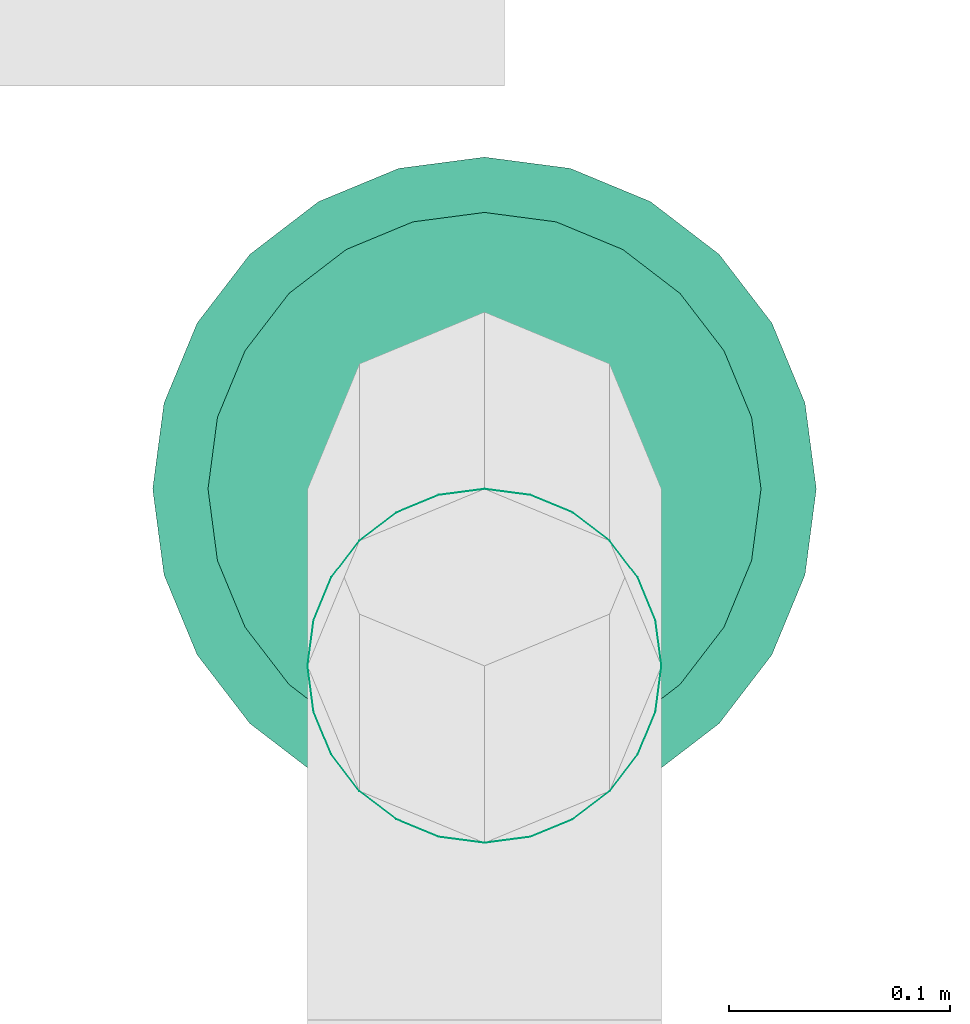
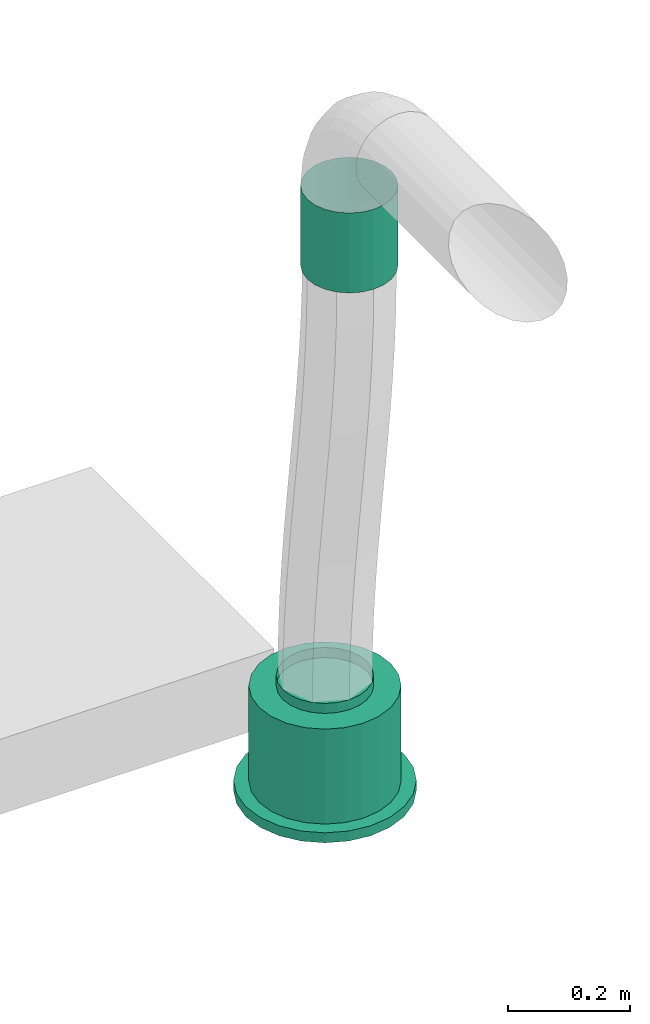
# One storey, part 35 of 374: 1 flow segment, 1 flow terminal.
"""IFC2X3 building model written with IfcOpenShell, lengths in metres."""

from ifc_helpers import new_model, si_unit, direction, origin, place, context, subcontext, project, spatial, open_shell, surface_model, source, transform, mapped, element, save


model = new_model("IFC2X3")

# Units and contexts
model_context = context("Model", 3, precision=1e-05, world=origin(), true_north=direction((-0.4480736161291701, 0.8939966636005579)))
body_context = subcontext(model_context, "Body", "Model", "MODEL_VIEW")
ifc_project = project(units=[si_unit("LENGTHUNIT", "METRE"), si_unit("AREAUNIT", "SQUARE_METRE"), si_unit("VOLUMEUNIT", "CUBIC_METRE"), si_unit("PLANEANGLEUNIT", "RADIAN"), si_unit("THERMODYNAMICTEMPERATUREUNIT", "KELVIN"), si_unit("MASSUNIT", "GRAM", prefix="KILO"), si_unit("TIMEUNIT", "SECOND")], contexts=[model_context])

# Site, building, storey
site_placement = place(None, origin())
site = spatial("IfcSite", under=ifc_project, at=site_placement, Name="Site 1", CompositionType="ELEMENT")
building_placement = place(site_placement, origin())
building = spatial("IfcBuilding", under=site, at=building_placement, Name="Undefined", CompositionType="ELEMENT")
storey_placement = place(building_placement, origin())
storey = spatial("IfcBuildingStorey", under=building, at=storey_placement, Name="Rez de chauss\x8ee", CompositionType="ELEMENT", Elevation=0.0)

# Flow terminal
shared_shape_1 = source(origin(), body_context, "Body", "SurfaceModel", [
    surface_model("IfcFaceBasedSurfaceModel", [(0.0, 0.0, 0.0), (0.03915785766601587, 0.0, 0.0), (0.03915785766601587, 0.020000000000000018, 0.0), (3.552713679e-15, 0.020000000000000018, 0.0), (0.07698144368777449, 0.0, -0.010134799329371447), (0.07698144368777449, 0.020000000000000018, -0.010134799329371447), (0.11089314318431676, 0.0, -0.02971372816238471), (0.11089314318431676, 0.020000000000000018, -0.02971372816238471), (0.13858192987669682, 0.0, -0.05740251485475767), (0.13858192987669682, 0.020000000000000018, -0.05740251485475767), (0.15816085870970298, 0.0, -0.09131421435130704), (0.15816085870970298, 0.020000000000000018, -0.09131421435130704), (0.16829565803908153, 0.0, -0.12913780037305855), (0.16829565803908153, 0.020000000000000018, -0.12913780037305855), (0.16829565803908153, 0.0, -0.16829565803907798), (0.16829565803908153, 0.020000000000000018, -0.16829565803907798), (0.15816085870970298, 0.0, -0.20611924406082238), (0.15816085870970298, 0.020000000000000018, -0.20611924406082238), (0.13858192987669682, 0.0, -0.24003094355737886), (0.13858192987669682, 0.020000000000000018, -0.24003094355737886), (0.11089314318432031, 0.0, -0.2677197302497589), (0.11089314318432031, 0.020000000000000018, -0.2677197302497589), (0.07698144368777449, 0.0, -0.2872986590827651), (0.07698144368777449, 0.020000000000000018, -0.2872986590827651), (0.039157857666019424, 0.0, -0.29743345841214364), (0.039157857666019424, 0.020000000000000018, -0.29743345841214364), (3.552713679e-15, 0.0, -0.29743345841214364), (3.552713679e-15, 0.020000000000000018, -0.29743345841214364), (-0.03782358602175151, 0.0, -0.2872986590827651), (-0.03782358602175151, 0.020000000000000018, -0.2872986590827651), (-0.07173528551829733, 0.0, -0.2677197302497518), (-0.07173528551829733, 0.020000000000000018, -0.2677197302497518), (-0.0994240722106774, 0.0, -0.24003094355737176), (-0.0994240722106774, 0.020000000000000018, -0.24003094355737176), (-0.11900300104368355, 0.0, -0.2061192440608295), (-0.11900300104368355, 0.020000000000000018, -0.2061192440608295), (-0.1291378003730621, 0.0, -0.16829565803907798), (-0.1291378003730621, 0.020000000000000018, -0.16829565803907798), (-0.1291378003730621, 0.0, -0.12913780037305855), (-0.1291378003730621, 0.020000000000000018, -0.12913780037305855), (-0.11900300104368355, 0.0, -0.09131421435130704), (-0.11900300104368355, 0.020000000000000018, -0.09131421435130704), (-0.0994240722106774, 0.0, -0.05740251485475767), (-0.0994240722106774, 0.020000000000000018, -0.05740251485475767), (-0.07173528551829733, 0.0, -0.029713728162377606), (-0.07173528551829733, 0.020000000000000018, -0.029713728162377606), (-0.03782358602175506, 0.0, -0.010134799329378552), (-0.03782358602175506, 0.020000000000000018, -0.010134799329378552), (0.019578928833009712, 0.0, -0.14871672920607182), (0.019578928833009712, 0.020000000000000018, -0.14871672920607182), (0.003263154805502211, 0.020000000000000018, -0.02478612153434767), (0.035894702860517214, 0.020000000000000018, -0.02478612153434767), (0.035894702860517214, 0.20999999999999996, -0.02478612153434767), (0.003263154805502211, 0.20999999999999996, -0.02478612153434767), (0.06741435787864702, 0.020000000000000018, -0.033231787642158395), (0.06741435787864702, 0.20999999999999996, -0.033231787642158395), (0.0956741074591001, 0.020000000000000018, -0.04954756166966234), (0.0956741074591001, 0.20999999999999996, -0.04954756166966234), (0.11874809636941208, 0.020000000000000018, -0.07262155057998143), (0.11874809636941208, 0.20999999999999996, -0.07262155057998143), (0.13506387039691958, 0.020000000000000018, -0.10088130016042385), (0.13506387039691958, 0.20999999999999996, -0.10088130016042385), (0.1435095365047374, 0.020000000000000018, -0.13240095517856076), (0.1435095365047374, 0.20999999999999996, -0.13240095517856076), (0.1435095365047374, 0.020000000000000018, -0.16503250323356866), (0.1435095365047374, 0.20999999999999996, -0.16503250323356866), (0.13506387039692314, 0.020000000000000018, -0.19655215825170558), (0.13506387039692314, 0.20999999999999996, -0.19655215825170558), (0.11874809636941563, 0.020000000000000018, -0.2248119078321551), (0.11874809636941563, 0.20999999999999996, -0.2248119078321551), (0.09567410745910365, 0.020000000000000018, -0.24788589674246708), (0.09567410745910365, 0.20999999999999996, -0.24788589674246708), (0.06741435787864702, 0.020000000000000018, -0.26420167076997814), (0.06741435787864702, 0.20999999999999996, -0.26420167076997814), (0.035894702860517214, 0.020000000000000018, -0.27264733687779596), (0.035894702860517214, 0.20999999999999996, -0.27264733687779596), (0.0032631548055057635, 0.020000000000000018, -0.27264733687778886), (0.0032631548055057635, 0.20999999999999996, -0.27264733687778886), (-0.028256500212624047, 0.020000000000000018, -0.26420167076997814), (-0.028256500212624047, 0.20999999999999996, -0.26420167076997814), (-0.05651624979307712, 0.020000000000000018, -0.2478858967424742), (-0.05651624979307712, 0.20999999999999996, -0.2478858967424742), (-0.07959023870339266, 0.020000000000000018, -0.2248119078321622), (-0.07959023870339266, 0.20999999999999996, -0.2248119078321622), (-0.09590601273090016, 0.020000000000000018, -0.19655215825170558), (-0.09590601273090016, 0.20999999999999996, -0.19655215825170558), (-0.10435167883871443, 0.020000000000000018, -0.16503250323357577), (-0.10435167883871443, 0.20999999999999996, -0.16503250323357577), (-0.10435167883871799, 0.020000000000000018, -0.13240095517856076), (-0.10435167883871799, 0.20999999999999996, -0.13240095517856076), (-0.09590601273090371, 0.020000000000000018, -0.10088130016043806), (-0.09590601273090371, 0.20999999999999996, -0.10088130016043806), (-0.07959023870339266, 0.020000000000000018, -0.07262155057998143), (-0.07959023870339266, 0.20999999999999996, -0.07262155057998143), (-0.056516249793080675, 0.020000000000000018, -0.04954756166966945), (-0.056516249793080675, 0.20999999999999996, -0.04954756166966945), (-0.028256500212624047, 0.020000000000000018, -0.033231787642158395), (-0.028256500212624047, 0.20999999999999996, -0.033231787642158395), (0.019578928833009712, 0.20999999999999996, -0.14871672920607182), (0.009136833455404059, 0.20999999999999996, -0.06940114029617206), (0.030021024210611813, 0.20999999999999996, -0.06940114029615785), (0.030021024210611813, 0.22999999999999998, -0.06940114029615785), (0.009136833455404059, 0.22999999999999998, -0.06940114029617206), (0.05019360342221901, 0.20999999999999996, -0.07480636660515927), (0.05019360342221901, 0.22999999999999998, -0.07480636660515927), (0.06827984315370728, 0.20999999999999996, -0.08524846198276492), (0.06827984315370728, 0.22999999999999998, -0.08524846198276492), (0.0830471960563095, 0.20999999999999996, -0.10001581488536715), (0.0830471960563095, 0.22999999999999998, -0.10001581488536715), (0.0934892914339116, 0.20999999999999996, -0.11810205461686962), (0.0934892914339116, 0.22999999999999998, -0.11810205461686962), (0.09889451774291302, 0.20999999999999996, -0.13827463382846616), (0.09889451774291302, 0.22999999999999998, -0.13827463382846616), (0.09889451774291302, 0.20999999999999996, -0.15915882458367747), (0.09889451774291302, 0.22999999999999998, -0.15915882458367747), (0.09348929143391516, 0.20999999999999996, -0.179331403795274), (0.09348929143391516, 0.22999999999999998, -0.179331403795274), (0.0830471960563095, 0.20999999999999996, -0.19741764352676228), (0.0830471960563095, 0.22999999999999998, -0.19741764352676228), (0.06827984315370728, 0.20999999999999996, -0.2121849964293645), (0.06827984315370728, 0.22999999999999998, -0.2121849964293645), (0.05019360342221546, 0.20999999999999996, -0.22262709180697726), (0.05019360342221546, 0.22999999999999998, -0.22262709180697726), (0.030021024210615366, 0.20999999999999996, -0.22803231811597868), (0.030021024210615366, 0.22999999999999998, -0.22803231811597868), (0.009136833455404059, 0.20999999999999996, -0.22803231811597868), (0.009136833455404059, 0.22999999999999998, -0.22803231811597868), (-0.011035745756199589, 0.20999999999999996, -0.22262709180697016), (-0.011035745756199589, 0.22999999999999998, -0.22262709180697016), (-0.0291219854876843, 0.20999999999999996, -0.2121849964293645), (-0.0291219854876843, 0.22999999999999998, -0.2121849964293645), (-0.043889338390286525, 0.20999999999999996, -0.19741764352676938), (-0.043889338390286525, 0.22999999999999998, -0.19741764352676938), (-0.05433143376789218, 0.20999999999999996, -0.17933140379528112), (-0.05433143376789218, 0.22999999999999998, -0.17933140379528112), (-0.05973666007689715, 0.20999999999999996, -0.15915882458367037), (-0.05973666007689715, 0.22999999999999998, -0.15915882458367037), (-0.0597366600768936, 0.20999999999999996, -0.13827463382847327), (-0.0597366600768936, 0.22999999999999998, -0.13827463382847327), (-0.05433143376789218, 0.20999999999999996, -0.11810205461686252), (-0.05433143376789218, 0.22999999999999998, -0.11810205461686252), (-0.043889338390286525, 0.20999999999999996, -0.10001581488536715), (-0.043889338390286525, 0.22999999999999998, -0.10001581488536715), (-0.02912198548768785, 0.20999999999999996, -0.08524846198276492), (-0.02912198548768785, 0.22999999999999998, -0.08524846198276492), (-0.011035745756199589, 0.20999999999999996, -0.07480636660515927), (-0.011035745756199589, 0.22999999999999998, -0.07480636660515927)], [open_shell([[[0, 1, 2, 3]], [[1, 4, 5, 2]], [[4, 6, 7, 5]], [[6, 8, 9, 7]], [[8, 10, 11, 9]], [[10, 12, 13, 11]], [[12, 14, 15, 13]], [[14, 16, 17, 15]], [[16, 18, 19, 17]], [[18, 20, 21, 19]], [[20, 22, 23, 21]], [[22, 24, 25, 23]], [[24, 26, 27, 25]], [[26, 28, 29, 27]], [[28, 30, 31, 29]], [[30, 32, 33, 31]], [[32, 34, 35, 33]], [[34, 36, 37, 35]], [[36, 38, 39, 37]], [[38, 40, 41, 39]], [[40, 42, 43, 41]], [[42, 44, 45, 43]], [[44, 46, 47, 45]], [[46, 0, 3, 47]], [[48, 1, 0]], [[48, 4, 1]], [[48, 6, 4]], [[48, 8, 6]], [[48, 10, 8]], [[48, 12, 10]], [[48, 14, 12]], [[48, 16, 14]], [[48, 18, 16]], [[48, 20, 18]], [[48, 22, 20]], [[48, 24, 22]], [[48, 26, 24]], [[48, 28, 26]], [[48, 30, 28]], [[48, 32, 30]], [[48, 34, 32]], [[48, 36, 34]], [[48, 38, 36]], [[48, 40, 38]], [[48, 42, 40]], [[48, 44, 42]], [[48, 46, 44]], [[48, 0, 46]], [[49, 47, 3]], [[49, 45, 47]], [[49, 43, 45]], [[49, 41, 43]], [[49, 39, 41]], [[49, 37, 39]], [[49, 35, 37]], [[49, 33, 35]], [[49, 31, 33]], [[49, 29, 31]], [[49, 27, 29]], [[49, 25, 27]], [[49, 23, 25]], [[49, 21, 23]], [[49, 19, 21]], [[49, 17, 19]], [[49, 15, 17]], [[49, 13, 15]], [[49, 11, 13]], [[49, 9, 11]], [[49, 7, 9]], [[49, 5, 7]], [[49, 2, 5]], [[49, 3, 2]], [[50, 51, 52, 53]], [[51, 54, 55, 52]], [[54, 56, 57, 55]], [[56, 58, 59, 57]], [[58, 60, 61, 59]], [[60, 62, 63, 61]], [[62, 64, 65, 63]], [[64, 66, 67, 65]], [[66, 68, 69, 67]], [[68, 70, 71, 69]], [[70, 72, 73, 71]], [[72, 74, 75, 73]], [[74, 76, 77, 75]], [[76, 78, 79, 77]], [[78, 80, 81, 79]], [[80, 82, 83, 81]], [[82, 84, 85, 83]], [[84, 86, 87, 85]], [[86, 88, 89, 87]], [[88, 90, 91, 89]], [[90, 92, 93, 91]], [[92, 94, 95, 93]], [[94, 96, 97, 95]], [[96, 50, 53, 97]], [[49, 51, 50]], [[49, 54, 51]], [[49, 56, 54]], [[49, 58, 56]], [[49, 60, 58]], [[49, 62, 60]], [[49, 64, 62]], [[49, 66, 64]], [[49, 68, 66]], [[49, 70, 68]], [[49, 72, 70]], [[49, 74, 72]], [[49, 76, 74]], [[49, 78, 76]], [[49, 80, 78]], [[49, 82, 80]], [[49, 84, 82]], [[49, 86, 84]], [[49, 88, 86]], [[49, 90, 88]], [[49, 92, 90]], [[49, 94, 92]], [[49, 96, 94]], [[49, 50, 96]], [[98, 97, 53]], [[98, 95, 97]], [[98, 93, 95]], [[98, 91, 93]], [[98, 89, 91]], [[98, 87, 89]], [[98, 85, 87]], [[98, 83, 85]], [[98, 81, 83]], [[98, 79, 81]], [[98, 77, 79]], [[98, 75, 77]], [[98, 73, 75]], [[98, 71, 73]], [[98, 69, 71]], [[98, 67, 69]], [[98, 65, 67]], [[98, 63, 65]], [[98, 61, 63]], [[98, 59, 61]], [[98, 57, 59]], [[98, 55, 57]], [[98, 52, 55]], [[98, 53, 52]], [[99, 100, 101, 102]], [[100, 103, 104, 101]], [[103, 105, 106, 104]], [[105, 107, 108, 106]], [[107, 109, 110, 108]], [[109, 111, 112, 110]], [[111, 113, 114, 112]], [[113, 115, 116, 114]], [[115, 117, 118, 116]], [[117, 119, 120, 118]], [[119, 121, 122, 120]], [[121, 123, 124, 122]], [[123, 125, 126, 124]], [[125, 127, 128, 126]], [[127, 129, 130, 128]], [[129, 131, 132, 130]], [[131, 133, 134, 132]], [[133, 135, 136, 134]], [[135, 137, 138, 136]], [[137, 139, 140, 138]], [[139, 141, 142, 140]], [[141, 143, 144, 142]], [[143, 145, 146, 144]], [[145, 99, 102, 146]]])]),
])
flow_terminal_placement = place(storey_placement, origin())
element("IfcFlowTerminal", 1, at=flow_terminal_placement, inside=storey, Name="Air diffuseur - bouche", ObjectType="Air diffuseur - bouche", context=body_context, shape_type="MappedRepresentation", body=[
    mapped(shared_shape_1, transform((10.98005330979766, 16.80529701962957, 2.38), x_axis=(0.9914448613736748, 0.13052619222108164, 0.0), y_axis=(0.0, 0.0, 1.0), z_axis=(0.13052619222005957, -0.9914448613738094, 0.0))),
])

# Flow segment
shared_shape_2 = source(origin(), body_context, "Body", "SurfaceModel", [
    surface_model("IfcFaceBasedSurfaceModel", [(0.0, 0.020884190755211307, 0.0), (0.0, 0.0, 0.0), (0.16000000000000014, 0.0, -4.4408921e-16), (0.16000000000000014, 0.0208841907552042, -4.4408921e-16), (0.0, -0.020172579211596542, -0.005405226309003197), (0.16000000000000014, -0.020172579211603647, -0.005405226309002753), (0.0, -0.03825881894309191, -0.015847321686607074), (0.16000000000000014, -0.03825881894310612, -0.015847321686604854), (0.0, -0.05302617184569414, -0.0306146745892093), (0.16000000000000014, -0.05302617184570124, -0.03061467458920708), (0.0, -0.06346826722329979, -0.04870091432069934), (0.16000000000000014, -0.0634682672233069, -0.04870091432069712), (0.0, -0.06887349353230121, -0.06887349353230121), (0.16000000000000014, -0.06887349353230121, -0.06887349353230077), (0.0, -0.06887349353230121, -0.08975768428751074), (0.16000000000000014, -0.06887349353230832, -0.08975768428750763), (0.0, -0.06346826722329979, -0.10993026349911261), (0.16000000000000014, -0.0634682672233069, -0.10993026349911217), (0.0, -0.05302617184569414, -0.12801650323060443), (0.16000000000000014, -0.05302617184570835, -0.1280165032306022), (0.0, -0.038258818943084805, -0.14278385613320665), (0.16000000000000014, -0.03825881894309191, -0.14278385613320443), (0.0, -0.020172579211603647, -0.15322595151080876), (0.16000000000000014, -0.020172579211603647, -0.1532259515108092), (0.0, 7.105427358e-15, -0.15863117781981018), (0.16000000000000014, -7.105427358e-15, -0.15863117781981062), (0.0, 0.020884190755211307, -0.15863117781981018), (0.16000000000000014, 0.0208841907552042, -0.15863117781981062), (0.0, 0.04105676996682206, -0.15322595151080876), (0.16000000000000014, 0.04105676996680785, -0.1532259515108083), (0.0, 0.05914300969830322, -0.1427838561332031), (0.16000000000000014, 0.05914300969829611, -0.14278385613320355), (0.0, 0.07391036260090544, -0.12801650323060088), (0.16000000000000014, 0.07391036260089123, -0.1280165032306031), (0.0, 0.0843524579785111, -0.10993026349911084), (0.16000000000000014, 0.08435245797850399, -0.10993026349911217), (0.0, 0.08975768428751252, -0.08975768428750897), (0.16000000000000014, 0.08975768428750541, -0.08975768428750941), (0.0, 0.08975768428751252, -0.06887349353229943), (0.16000000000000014, 0.08975768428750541, -0.06887349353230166), (0.0, 0.0843524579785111, -0.048700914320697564), (0.16000000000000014, 0.08435245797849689, -0.04870091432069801), (0.0, 0.07391036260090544, -0.030614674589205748), (0.16000000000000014, 0.07391036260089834, -0.03061467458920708), (0.0, 0.05914300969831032, -0.015847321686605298), (0.16000000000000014, 0.05914300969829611, -0.01584732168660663), (0.0, 0.04105676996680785, -0.005405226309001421), (0.16000000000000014, 0.04105676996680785, -0.005405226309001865)], [open_shell([[[0, 1, 2, 3]], [[1, 4, 5, 2]], [[4, 6, 7, 5]], [[6, 8, 9, 7]], [[8, 10, 11, 9]], [[10, 12, 13, 11]], [[12, 14, 15, 13]], [[14, 16, 17, 15]], [[16, 18, 19, 17]], [[18, 20, 21, 19]], [[20, 22, 23, 21]], [[22, 24, 25, 23]], [[24, 26, 27, 25]], [[26, 28, 29, 27]], [[28, 30, 31, 29]], [[30, 32, 33, 31]], [[32, 34, 35, 33]], [[34, 36, 37, 35]], [[36, 38, 39, 37]], [[38, 40, 41, 39]], [[40, 42, 43, 41]], [[42, 44, 45, 43]], [[44, 46, 47, 45]], [[46, 0, 3, 47]]])]),
])
flow_segment_placement = place(storey_placement, origin())
element("IfcFlowSegment", 2, at=flow_segment_placement, inside=storey, Name="Tube", ObjectType="Tube", context=body_context, shape_type="MappedRepresentation", body=[
    mapped(shared_shape_2, transform((11.000758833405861, 16.798022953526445, 3.4800000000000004), x_axis=(0.0, 0.0, 1.0), y_axis=(-0.9914448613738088, -0.13052619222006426, 0.0), z_axis=(0.13052619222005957, -0.9914448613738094, 0.0))),
])

save(model, "model.ifc")
